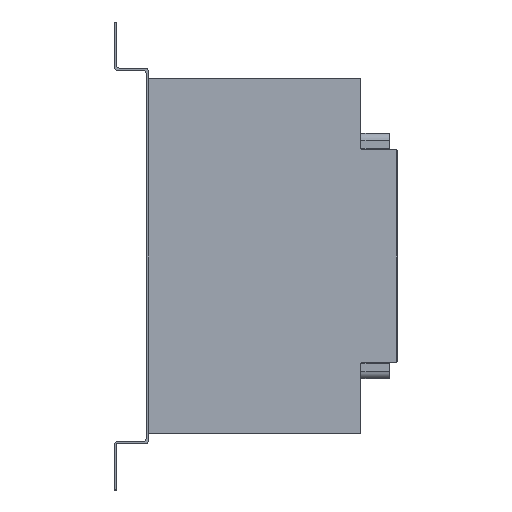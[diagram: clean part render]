
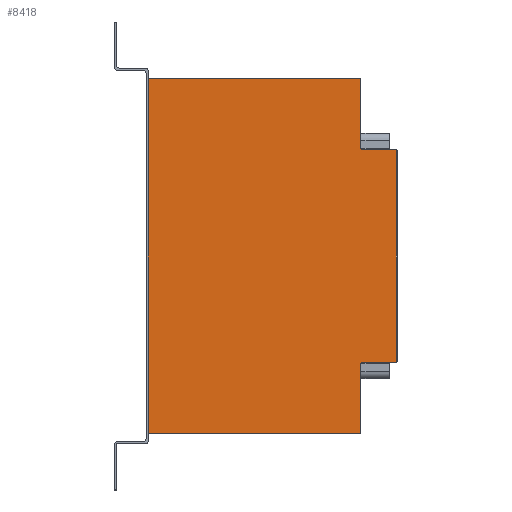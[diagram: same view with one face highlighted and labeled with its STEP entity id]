
A CAD part, left-side view. The second image highlights one B-rep face of the part: STEP entity #8418.
In plain terms, the highlighted planar face has unit normal (-1, 0, 0).
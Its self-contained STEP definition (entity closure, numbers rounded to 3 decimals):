
#308=PLANE('',#8987);
#650=FACE_OUTER_BOUND('',#1135,.T.);
#1135=EDGE_LOOP('',(#6214,#6215,#6216,#6217,#6218,#6219,#6220,#6221,#6222,
#6223,#6224,#6225));
#1649=LINE('',#11940,#2569);
#1712=LINE('',#12111,#2632);
#1787=LINE('',#12301,#2707);
#1862=LINE('',#12483,#2782);
#1873=LINE('',#12508,#2793);
#1880=LINE('',#12530,#2800);
#1881=LINE('',#12532,#2801);
#1882=LINE('',#12533,#2802);
#2569=VECTOR('',#9609,24.);
#2632=VECTOR('',#9756,24.);
#2707=VECTOR('',#9911,149.);
#2782=VECTOR('',#10072,149.);
#2793=VECTOR('',#10093,48.);
#2800=VECTOR('',#10122,150.);
#2801=VECTOR('',#10125,48.);
#2802=VECTOR('',#10126,250.);
#3455=CIRCLE('',#8882,1.);
#3467=CIRCLE('',#8924,1.);
#3489=CIRCLE('',#8972,1.);
#3491=CIRCLE('',#8978,1.);
#3708=VERTEX_POINT('',#11937);
#3709=VERTEX_POINT('',#11939);
#3759=VERTEX_POINT('',#12073);
#3774=VERTEX_POINT('',#12108);
#3775=VERTEX_POINT('',#12110);
#3844=VERTEX_POINT('',#12284);
#3845=VERTEX_POINT('',#12285);
#3850=VERTEX_POINT('',#12300);
#3913=VERTEX_POINT('',#12480);
#3914=VERTEX_POINT('',#12482);
#3919=VERTEX_POINT('',#12495);
#3923=VERTEX_POINT('',#12507);
#4538=EDGE_CURVE('',#3709,#3708,#1649,.T.);
#4607=EDGE_CURVE('',#3709,#3759,#3455,.T.);
#4625=EDGE_CURVE('',#3775,#3774,#1712,.T.);
#4714=EDGE_CURVE('',#3844,#3845,#3467,.T.);
#4722=EDGE_CURVE('',#3850,#3845,#1787,.T.);
#4817=EDGE_CURVE('',#3914,#3913,#1862,.T.);
#4824=EDGE_CURVE('',#3914,#3919,#3489,.T.);
#4830=EDGE_CURVE('',#3923,#3919,#1873,.T.);
#4833=EDGE_CURVE('',#3923,#3774,#3491,.T.);
#4843=EDGE_CURVE('',#3775,#3708,#1880,.T.);
#4844=EDGE_CURVE('',#3844,#3759,#1881,.T.);
#4845=EDGE_CURVE('',#3850,#3913,#1882,.T.);
#6214=ORIENTED_EDGE('',*,*,#4714,.F.);
#6215=ORIENTED_EDGE('',*,*,#4844,.T.);
#6216=ORIENTED_EDGE('',*,*,#4607,.F.);
#6217=ORIENTED_EDGE('',*,*,#4538,.T.);
#6218=ORIENTED_EDGE('',*,*,#4843,.F.);
#6219=ORIENTED_EDGE('',*,*,#4625,.T.);
#6220=ORIENTED_EDGE('',*,*,#4833,.F.);
#6221=ORIENTED_EDGE('',*,*,#4830,.T.);
#6222=ORIENTED_EDGE('',*,*,#4824,.F.);
#6223=ORIENTED_EDGE('',*,*,#4817,.T.);
#6224=ORIENTED_EDGE('',*,*,#4845,.F.);
#6225=ORIENTED_EDGE('',*,*,#4722,.T.);
#8418=ADVANCED_FACE('',(#650),#308,.T.);
#8882=AXIS2_PLACEMENT_3D('',#12074,#9729,#9730);
#8924=AXIS2_PLACEMENT_3D('',#12286,#9897,#9898);
#8972=AXIS2_PLACEMENT_3D('',#12496,#10081,#10082);
#8978=AXIS2_PLACEMENT_3D('',#12512,#10099,#10100);
#8987=AXIS2_PLACEMENT_3D('',#12531,#10123,#10124);
#9609=DIRECTION('',(0.,-1.,0.));
#9729=DIRECTION('center_axis',(-1.,0.,0.));
#9730=DIRECTION('ref_axis',(0.,0.707,0.707));
#9756=DIRECTION('',(0.,1.,0.));
#9897=DIRECTION('center_axis',(1.,0.,0.));
#9898=DIRECTION('ref_axis',(0.,-0.707,-0.707));
#9911=DIRECTION('',(0.,-1.,0.));
#10072=DIRECTION('',(0.,1.,0.));
#10081=DIRECTION('center_axis',(1.,0.,0.));
#10082=DIRECTION('ref_axis',(0.,-0.707,0.707));
#10093=DIRECTION('',(0.,0.,1.));
#10099=DIRECTION('center_axis',(-1.,0.,0.));
#10100=DIRECTION('ref_axis',(0.,0.707,-0.707));
#10122=DIRECTION('',(0.,0.,-1.));
#10123=DIRECTION('center_axis',(-1.,0.,0.));
#10124=DIRECTION('ref_axis',(0.,-1.,0.));
#10125=DIRECTION('',(0.,0.,1.));
#10126=DIRECTION('',(0.,0.,1.));
#11937=CARTESIAN_POINT('',(34.845,-376.788,67.5));
#11939=CARTESIAN_POINT('',(34.845,-352.788,67.5));
#11940=CARTESIAN_POINT('',(34.845,-351.788,67.5));
#12073=CARTESIAN_POINT('',(34.845,-351.788,66.5));
#12074=CARTESIAN_POINT('Origin',(34.845,-352.788,66.5));
#12108=CARTESIAN_POINT('',(34.845,-352.788,217.5));
#12110=CARTESIAN_POINT('',(34.845,-376.788,217.5));
#12111=CARTESIAN_POINT('',(34.845,-377.788,217.5));
#12284=CARTESIAN_POINT('',(34.845,-351.788,18.5));
#12285=CARTESIAN_POINT('',(34.845,-350.788,17.5));
#12286=CARTESIAN_POINT('Origin',(34.845,-350.788,18.5));
#12300=CARTESIAN_POINT('',(34.845,-201.788,17.5));
#12301=CARTESIAN_POINT('',(34.845,-201.788,17.5));
#12480=CARTESIAN_POINT('',(34.845,-201.788,267.5));
#12482=CARTESIAN_POINT('',(34.845,-350.788,267.5));
#12483=CARTESIAN_POINT('',(34.845,-351.788,267.5));
#12495=CARTESIAN_POINT('',(34.845,-351.788,266.5));
#12496=CARTESIAN_POINT('Origin',(34.845,-350.788,266.5));
#12507=CARTESIAN_POINT('',(34.845,-351.788,218.5));
#12508=CARTESIAN_POINT('',(34.845,-351.788,217.5));
#12512=CARTESIAN_POINT('Origin',(34.845,-352.788,218.5));
#12530=CARTESIAN_POINT('',(34.845,-376.788,105.));
#12531=CARTESIAN_POINT('Origin',(34.845,-286.736,142.5));
#12532=CARTESIAN_POINT('',(34.845,-351.788,17.5));
#12533=CARTESIAN_POINT('',(34.845,-201.788,208.75));
